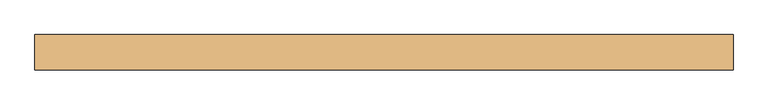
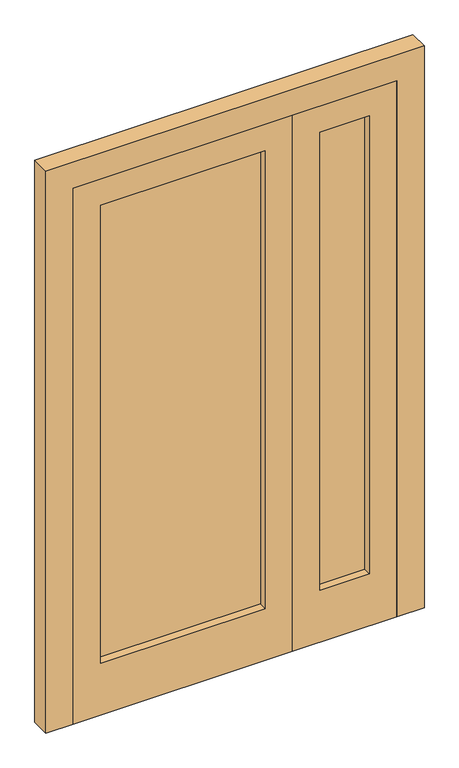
"""IFC4 building model written with IfcOpenShell, lengths in millimetres: door geometry, (Dr)_ДПУ(распашная)_2Ст_Прямоугольная : (Нр)-ДО(1380х2165(h))."""

import ifcopenshell
import ifcopenshell.guid

model = None  # the IFC model being written
_history = None  # IfcOwnerHistory: only IFC2X3 demands one
_inside = {}  # id of a spatial element -> (the spatial element, [elements in it])
_under = {}  # id of a project, library or spatial element -> (it, [spatial elements below it])
_declared = {}  # id of a project -> (the project, [libraries it declares])
_typed = {}  # id of a type object -> (the type object, [elements of that type])
_made_of = {}  # id of a material, layer set ... -> (it, [elements and type objects made of it])


def new_model(schema):
    """Start an empty IFC model of exactly this schema.

    Asked for "IFC4X3", IfcOpenShell would pick the latest addendum, in which some entities
    have other attributes; the version numbers below select the first issue.
    IFC2X3 requires an IfcOwnerHistory on every rooted entity: one is made here for all.
    """
    global model, _history
    if schema == "IFC4X3":
        model = ifcopenshell.file(schema_version=(4, 3, 0, 0))
    else:
        model = ifcopenshell.file(schema=schema)
    _inside.clear()
    _under.clear()
    _declared.clear()
    _typed.clear()
    _made_of.clear()
    _history = None
    if model.schema == "IFC2X3":
        org = make("IfcOrganization", Name="unknown")
        user = make(
            "IfcPersonAndOrganization",
            ThePerson=make("IfcPerson", FamilyName="unknown"),
            TheOrganization=org,
        )
        app = make(
            "IfcApplication",
            ApplicationDeveloper=org,
            Version="unknown",
            ApplicationFullName="unknown",
            ApplicationIdentifier="unknown",
        )
        _history = make(
            "IfcOwnerHistory",
            OwningUser=user,
            OwningApplication=app,
            ChangeAction="ADDED",
            CreationDate=0,
        )
    return model


def make(cls, **values):
    """One entity of the class cls with the attributes given. An attribute that is None is left unset."""
    return model.create_entity(
        cls, **{name: value for name, value in values.items() if value is not None}
    )


def rooted(cls, **values):
    """An entity with a GlobalId (a new one), such as an element, a storey or a relation."""
    return make(cls, GlobalId=ifcopenshell.guid.new(), OwnerHistory=_history, **values)


def si_unit(unit_type, name, prefix=None):
    """IfcSIUnit, for example si_unit("LENGTHUNIT", "METRE", prefix="MILLI")."""
    return make("IfcSIUnit", UnitType=unit_type, Prefix=prefix, Name=name)


def assignment(units):
    """IfcUnitAssignment: the units of a project."""
    return None if units is None else make("IfcUnitAssignment", Units=units)


def point(xyz):
    """IfcCartesianPoint."""
    return None if xyz is None else make("IfcCartesianPoint", Coordinates=xyz)


def direction(xyz):
    """IfcDirection."""
    return None if xyz is None else make("IfcDirection", DirectionRatios=xyz)


def frame(location, z_axis=None, x_axis=None):
    """IfcAxis2Placement3D, a coordinate frame: its origin and axes. An axis left out is left unset."""
    return make(
        "IfcAxis2Placement3D",
        Location=point(location),
        Axis=direction(z_axis),
        RefDirection=direction(x_axis),
    )


def origin():
    """The frame at (0, 0, 0) with its axes left unset."""
    return frame((0.0, 0.0, 0.0))


def place(relative_to, where):
    """IfcLocalPlacement: puts the frame where relative to a parent placement (None: the world)."""
    return make(
        "IfcLocalPlacement", PlacementRelTo=relative_to, RelativePlacement=where
    )


def context(
    kind, dimensions, precision=None, world=None, true_north=None, identifier=None
):
    """IfcGeometricRepresentationContext, for example the 3D "Model" context."""
    return make(
        "IfcGeometricRepresentationContext",
        ContextIdentifier=identifier,
        ContextType=kind,
        CoordinateSpaceDimension=dimensions,
        Precision=precision,
        WorldCoordinateSystem=world,
        TrueNorth=true_north,
    )


def project(units=None, contexts=None):
    """IfcProject with its units and contexts."""
    return rooted(
        "IfcProject",
        Name="project",
        RepresentationContexts=contexts,
        UnitsInContext=assignment(units),
    )


def spatial(cls, under=None, at=None, **own):
    """A site, building, storey or space (cls), placed at a placement, below another one or the project."""
    s = rooted(cls, ObjectPlacement=at, **own)
    if under is not None:
        _under.setdefault(under.id(), (under, []))[1].append(s)
    return s


def polyline(points):
    """IfcPolyline through the points."""
    return make("IfcPolyline", Points=[point(p) for p in points])


def outline(outer, holes=None, kind="AREA"):
    """IfcArbitraryClosedProfileDef: a profile drawn as a closed curve; with holes, ...WithVoids."""
    if holes is None:
        return make("IfcArbitraryClosedProfileDef", ProfileType=kind, OuterCurve=outer)
    return make(
        "IfcArbitraryProfileDefWithVoids",
        ProfileType=kind,
        OuterCurve=outer,
        InnerCurves=holes,
    )


def extrude(swept, where, along, depth):
    """IfcExtrudedAreaSolid: the profile swept, set in the frame where, extruded along a direction by depth."""
    return make(
        "IfcExtrudedAreaSolid",
        SweptArea=swept,
        Position=where,
        ExtrudedDirection=direction(along),
        Depth=depth,
    )


def shape(context_of_items, identifier, shape_type, items):
    """IfcShapeRepresentation: the items that make up one representation, for example the "Body"."""
    return make(
        "IfcShapeRepresentation",
        ContextOfItems=context_of_items,
        RepresentationIdentifier=identifier,
        RepresentationType=shape_type,
        Items=items,
    )


def source(mapping_origin, context_of_items, identifier, shape_type, items):
    """IfcRepresentationMap: a shape defined once, which mapped items show again and again."""
    return make(
        "IfcRepresentationMap",
        MappingOrigin=mapping_origin,
        MappedRepresentation=shape(context_of_items, identifier, shape_type, items),
    )


def transform(
    local_origin,
    x_axis=None,
    y_axis=None,
    z_axis=None,
    scale=None,
    scale2=None,
    scale3=None,
    uniform=True,
):
    """IfcCartesianTransformationOperator3D, or its non-uniform kind. x_axis, y_axis, z_axis: its Axis1, 2, 3."""
    if uniform:
        return make(
            "IfcCartesianTransformationOperator3D",
            Axis1=direction(x_axis),
            Axis2=direction(y_axis),
            LocalOrigin=point(local_origin),
            Scale=scale,
            Axis3=direction(z_axis),
        )
    return make(
        "IfcCartesianTransformationOperator3DnonUniform",
        Axis1=direction(x_axis),
        Axis2=direction(y_axis),
        LocalOrigin=point(local_origin),
        Scale=scale,
        Axis3=direction(z_axis),
        Scale2=scale2,
        Scale3=scale3,
    )


def mapped(mapping_source, mapping_target):
    """IfcMappedItem: shows the shape of a source again, moved by a transform."""
    return make(
        "IfcMappedItem", MappingSource=mapping_source, MappingTarget=mapping_target
    )


def made_of(thing, what):
    """Note that an element or type object is made of a material, layer set ...; save() writes the relation."""
    if what is not None:
        _made_of.setdefault(what.id(), (what, []))[1].append(thing)
    return thing


def element(
    cls,
    number,
    at=None,
    inside=None,
    cuts=None,
    type_object=None,
    material=None,
    context=None,
    identifier="Body",
    shape_type=None,
    held_by="IfcProductDefinitionShape",
    body=None,
    shapes=None,
    **own,
):
    """One element of the class cls, such as IfcWall. Its Tag is "e" and its number.

    at: its placement. inside: the storey or other place that contains it. cuts: it is an
    opening in that element (IfcRelVoidsElement). A single representation is given by context,
    identifier, shape_type and body (its items); several are given by shapes. held_by: the class
    of the entity that holds the representations. save() writes the other relations.
    """
    e = rooted(cls, Tag="e%d" % number, ObjectPlacement=at, **own)
    if body is not None:
        shapes = [shape(context, identifier, shape_type, body)]
    if shapes is not None:
        e.Representation = make(held_by, Representations=shapes)
    if inside is not None:
        _inside.setdefault(inside.id(), (inside, []))[1].append(e)
    if cuts is not None:
        rooted(
            "IfcRelVoidsElement", RelatingBuildingElement=cuts, RelatedOpeningElement=e
        )
    if type_object is not None:
        _typed.setdefault(type_object.id(), (type_object, []))[1].append(e)
    return made_of(e, material)


def aggregate(whole, parts):
    """IfcRelAggregates: a whole, such as a stair, and the parts it consists of."""
    return rooted("IfcRelAggregates", RelatingObject=whole, RelatedObjects=parts)


def save(model, path):
    """Write the relations noted so far, then the file.

    IfcRelAggregates (storeys below a building ...), IfcRelContainedInSpatialStructure (elements
    in a storey), IfcRelDefinesByType, IfcRelAssociatesMaterial and IfcRelDeclares: one each for
    every whole, place, type object, material and project.
    """
    for whole, parts in _under.values():
        aggregate(whole, parts)
    for where, things in _inside.values():
        rooted(
            "IfcRelContainedInSpatialStructure",
            RelatedElements=things,
            RelatingStructure=where,
        )
    for kind, things in _typed.values():
        rooted("IfcRelDefinesByType", RelatedObjects=things, RelatingType=kind)
    for what, things in _made_of.values():
        rooted("IfcRelAssociatesMaterial", RelatedObjects=things, RelatingMaterial=what)
    for by, libraries in _declared.values():
        rooted("IfcRelDeclares", RelatingContext=by, RelatedDefinitions=libraries)
    model.write(path)


def door_2dab296f(model_context):
    return source(origin(), model_context, "Body", "SweptSolid", [
        extrude(outline(polyline([(490.0, 5.0), (490.0, -5.0), (310.0, -5.0), (310.0, 5.0), (490.0, 5.0)])), frame((0.0, 0.0, 200.0), z_axis=(0.0, 0.0, 1.0), x_axis=(1.0, 0.0, 0.0)), (0.0, 0.0, 1.0), 1765.0),
        extrude(outline(polyline([(0.0, 590.0), (2065.0, 590.0), (2065.0, 210.0), (0.0, 210.0), (0.0, 590.0)]), holes=[polyline([(1965.0, 490.0), (200.0, 490.0), (200.0, 310.0), (1965.0, 310.0), (1965.0, 490.0)])]), frame((0.0, -35.0, 0.0), z_axis=(0.0, 1.0, 0.0), x_axis=(0.0, 0.0, 1.0)), (0.0, 0.0, 1.0), 70.0),
        extrude(outline(polyline([(-490.0, 5.0), (110.0, 5.0), (110.0, -5.0), (-490.0, -5.0), (-490.0, 5.0)])), frame((0.0, 0.0, 200.0), z_axis=(0.0, 0.0, 1.0), x_axis=(1.0, 0.0, 0.0)), (0.0, 0.0, 1.0), 1765.0),
        extrude(outline(polyline([(0.0, -590.0), (0.0, 210.0), (2065.0, 210.0), (2065.0, -590.0), (0.0, -590.0)]), holes=[polyline([(1965.0, -490.0), (1965.0, 110.0), (200.0, 110.0), (200.0, -490.0), (1965.0, -490.0)])]), frame((0.0, -35.0, 0.0), z_axis=(0.0, 1.0, 0.0), x_axis=(0.0, 0.0, 1.0)), (0.0, 0.0, 1.0), 70.0),
        extrude(outline(polyline([(2165.0, 690.0), (2165.0, -690.0), (0.0, -690.0), (0.0, -590.0), (2065.0, -590.0), (2065.0, 590.0), (0.0, 590.0), (0.0, 690.0), (2165.0, 690.0)])), frame((0.0, -35.0, 0.0), z_axis=(0.0, 1.0, 0.0), x_axis=(0.0, 0.0, 1.0)), (0.0, 0.0, 1.0), 70.0),
    ])


if __name__ == "__main__":
    model = new_model("IFC4")
    model_context = context("Model", 3, world=origin())
    ifc_project = project(units=[si_unit("LENGTHUNIT", "METRE", prefix="MILLI")], contexts=[model_context])
    site = spatial("IfcSite", under=ifc_project)
    building = spatial("IfcBuilding", under=site)
    placement = place(None, origin())
    door_shape = door_2dab296f(model_context)
    element("IfcDoor", 1, ObjectType="(Dr)_ДПУ(распашная)_2Ст_Прямоугольная : (Нр)-ДО(1380х2165(h))", at=placement, inside=building, context=model_context, shape_type="MappedRepresentation", body=[
        mapped(door_shape, transform((0.0, 0.0, 0.0), x_axis=(1.0, 0.0, 0.0), y_axis=(0.0, 1.0, 0.0), z_axis=(0.0, 0.0, 1.0))),
    ])
    save(model, "model.ifc")
